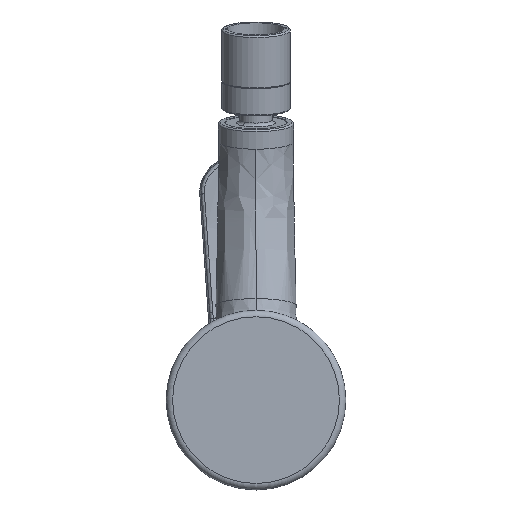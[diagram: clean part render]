
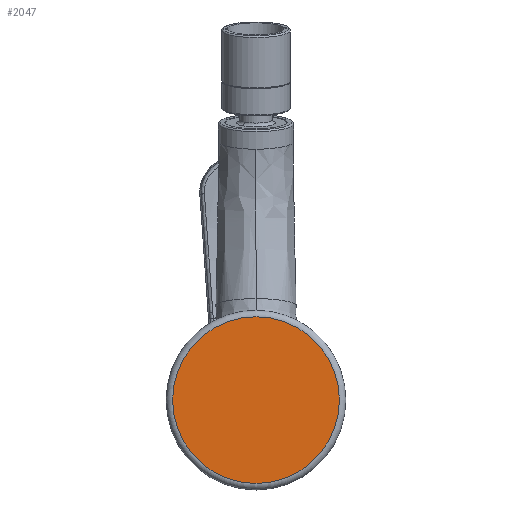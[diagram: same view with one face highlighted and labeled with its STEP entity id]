
A CAD part, front view. The second image highlights one B-rep face of the part: STEP entity #2047.
In plain terms, the highlighted planar face has unit normal (0, -1, 0).
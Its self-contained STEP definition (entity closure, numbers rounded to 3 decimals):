
#343=FACE_OUTER_BOUND('',#448,.T.);
#448=EDGE_LOOP('',(#1327,#1328));
#560=CIRCLE('',#2173,25.5);
#561=CIRCLE('',#2174,25.5);
#715=VERTEX_POINT('',#2886);
#716=VERTEX_POINT('',#2887);
#978=EDGE_CURVE('',#715,#716,#560,.T.);
#979=EDGE_CURVE('',#716,#715,#561,.T.);
#1327=ORIENTED_EDGE('',*,*,#978,.F.);
#1328=ORIENTED_EDGE('',*,*,#979,.F.);
#2025=PLANE('',#2172);
#2047=ADVANCED_FACE('',(#343),#2025,.F.);
#2172=AXIS2_PLACEMENT_3D('',#2885,#2400,#2401);
#2173=AXIS2_PLACEMENT_3D('',#2888,#2402,#2403);
#2174=AXIS2_PLACEMENT_3D('',#2889,#2404,#2405);
#2400=DIRECTION('center_axis',(0.,1.,0.));
#2401=DIRECTION('ref_axis',(0.,0.,1.));
#2402=DIRECTION('center_axis',(0.,1.,0.));
#2403=DIRECTION('ref_axis',(0.,0.,
1.));
#2404=DIRECTION('center_axis',(0.,1.,0.));
#2405=DIRECTION('ref_axis',(0.,0.,
1.));
#2885=CARTESIAN_POINT('Origin',(0.,0.,
0.));
#2886=CARTESIAN_POINT('',(0.,0.,-25.5));
#2887=CARTESIAN_POINT('',(0.,0.,25.5));
#2888=CARTESIAN_POINT('Origin',(0.,0.,0.));
#2889=CARTESIAN_POINT('Origin',(0.,0.,0.));
